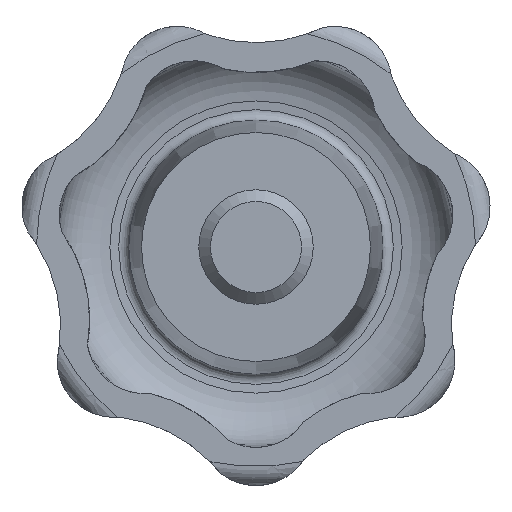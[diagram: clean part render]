
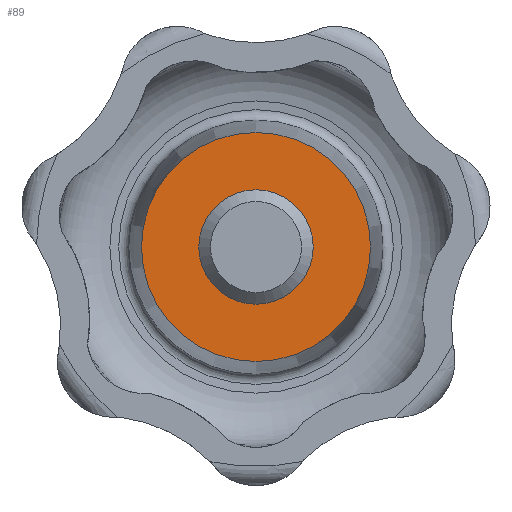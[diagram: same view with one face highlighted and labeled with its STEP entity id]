
A CAD part, front view. The second image highlights one B-rep face of the part: STEP entity #89.
In plain terms, the highlighted planar face has unit normal (0, -1, 0).
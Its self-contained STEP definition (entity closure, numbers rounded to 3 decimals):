
#89 = ADVANCED_FACE( '', ( #179, #180 ), #181, .F. );
#179 = FACE_BOUND( '', #337, .T. );
#180 = FACE_OUTER_BOUND( '', #338, .T. );
#181 = PLANE( '', #339 );
#337 = EDGE_LOOP( '', ( #593 ) );
#338 = EDGE_LOOP( '', ( #594 ) );
#339 = AXIS2_PLACEMENT_3D( '', #595, #596, #597 );
#593 = ORIENTED_EDGE( '', *, *, #1159, .F. );
#594 = ORIENTED_EDGE( '', *, *, #1160, .T. );
#595 = CARTESIAN_POINT( '', ( 6., 0., 0. ) );
#596 = DIRECTION( '', ( 0., 1., 0. ) );
#597 = DIRECTION( '', ( 0., 0., 1. ) );
#1159 = EDGE_CURVE( '', #1426, #1426, #1427, .T. );
#1160 = EDGE_CURVE( '', #1428, #1428, #1429, .T. );
#1426 = VERTEX_POINT( '', #2212 );
#1427 = CIRCLE( '', #2213, 3. );
#1428 = VERTEX_POINT( '', #2214 );
#1429 = CIRCLE( '', #2215, 6. );
#2212 = CARTESIAN_POINT( '', ( 0., 0., -3. ) );
#2213 = AXIS2_PLACEMENT_3D( '', #2970, #2971, #2972 );
#2214 = CARTESIAN_POINT( '', ( 0., 0., -6. ) );
#2215 = AXIS2_PLACEMENT_3D( '', #2973, #2974, #2975 );
#2970 = CARTESIAN_POINT( '', ( 0., 0., 0. ) );
#2971 = DIRECTION( '', ( 0., -1., 0. ) );
#2972 = DIRECTION( '', ( 0., 0., -1. ) );
#2973 = CARTESIAN_POINT( '', ( 0., 0., 0. ) );
#2974 = DIRECTION( '', ( 0., -1., 0. ) );
#2975 = DIRECTION( '', ( 0., 0., -1. ) );
